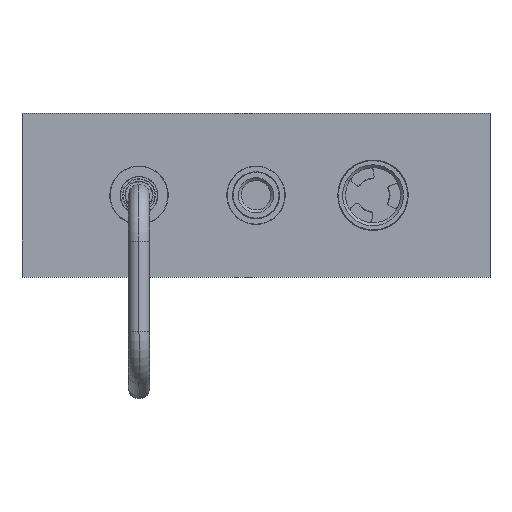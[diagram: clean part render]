
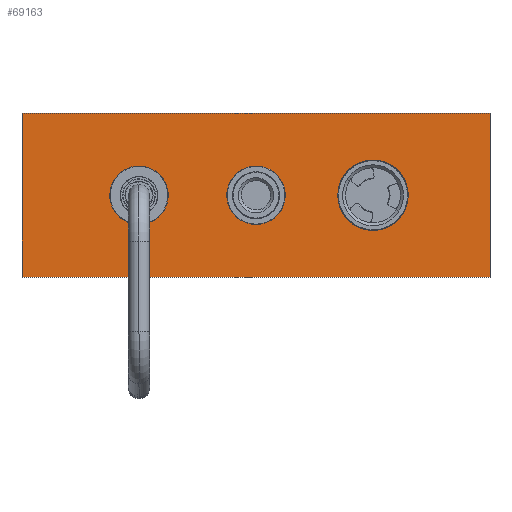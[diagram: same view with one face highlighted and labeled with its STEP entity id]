
A CAD part, top view. The second image highlights one B-rep face of the part: STEP entity #69163.
In plain terms, the highlighted planar face has unit normal (0, 0, 1).
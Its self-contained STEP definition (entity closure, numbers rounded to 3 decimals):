
#1066 = EDGE_CURVE ( 'NONE', #65564, #7315, #22038, .T. ) ;
#2858 = DIRECTION ( 'NONE',  ( 0., 0., 1. ) ) ;
#4224 = CARTESIAN_POINT ( 'NONE',  ( 200., -70., 20. ) ) ;
#5495 = FACE_BOUND ( 'NONE', #19574, .T. ) ;
#5968 = VECTOR ( 'NONE', #60071, 1000. ) ;
#6387 = ORIENTED_EDGE ( 'NONE', *, *, #1066, .T. ) ;
#7315 = VERTEX_POINT ( 'NONE', #65103 ) ;
#7729 = ORIENTED_EDGE ( 'NONE', *, *, #51245, .F. ) ;
#9045 = FACE_BOUND ( 'NONE', #49381, .T. ) ;
#9076 = CARTESIAN_POINT ( 'NONE',  ( 100., 0., 20. ) ) ;
#9109 = EDGE_CURVE ( 'NONE', #66281, #31534, #16325, .T. ) ;
#10462 = DIRECTION ( 'NONE',  ( -1., 0., 0. ) ) ;
#11919 = CIRCLE ( 'NONE', #31056, 17.5 ) ;
#12158 = LINE ( 'NONE', #55300, #5968 ) ;
#14007 = DIRECTION ( 'NONE',  ( 0., -1., 0. ) ) ;
#14748 = PLANE ( 'NONE',  #50041 ) ;
#15824 = ORIENTED_EDGE ( 'NONE', *, *, #9109, .F. ) ;
#15941 = DIRECTION ( 'NONE',  ( 0., 0., 1. ) ) ;
#16325 = CIRCLE ( 'NONE', #48789, 17.5 ) ;
#16568 = VERTEX_POINT ( 'NONE', #25516 ) ;
#17289 = DIRECTION ( 'NONE',  ( 1., 0., 0. ) ) ;
#18262 = CARTESIAN_POINT ( 'NONE',  ( -82.5, 0., 20. ) ) ;
#18359 = EDGE_CURVE ( 'NONE', #31534, #66281, #11919, .T. ) ;
#19281 = CARTESIAN_POINT ( 'NONE',  ( 15., 0., 20. ) ) ;
#19321 = EDGE_CURVE ( 'NONE', #51503, #46401, #25129, .T. ) ;
#19574 = EDGE_LOOP ( 'NONE', ( #7729, #45017 ) ) ;
#19758 = DIRECTION ( 'NONE',  ( 1., 0., 0. ) ) ;
#20233 = CIRCLE ( 'NONE', #67526, 15. ) ;
#20774 = EDGE_CURVE ( 'NONE', #16568, #65564, #21314, .T. ) ;
#20925 = CIRCLE ( 'NONE', #63713, 15. ) ;
#21314 = LINE ( 'NONE', #56191, #58723 ) ;
#21413 = DIRECTION ( 'NONE',  ( 1., 0., 0. ) ) ;
#22038 = LINE ( 'NONE', #42132, #62984 ) ;
#25129 = CIRCLE ( 'NONE', #49216, 15. ) ;
#25516 = CARTESIAN_POINT ( 'NONE',  ( 200., 70., 20. ) ) ;
#27383 = EDGE_LOOP ( 'NONE', ( #6387, #40255, #39089, #48517 ) ) ;
#27401 = DIRECTION ( 'NONE',  ( 0., 0., 1. ) ) ;
#29814 = ORIENTED_EDGE ( 'NONE', *, *, #19321, .F. ) ;
#30876 = VERTEX_POINT ( 'NONE', #33495 ) ;
#31056 = AXIS2_PLACEMENT_3D ( 'NONE', #61670, #27401, #21413 ) ;
#31534 = VERTEX_POINT ( 'NONE', #44813 ) ;
#32027 = CARTESIAN_POINT ( 'NONE',  ( 100., 0., 20. ) ) ;
#32578 = EDGE_CURVE ( 'NONE', #46401, #51503, #20233, .T. ) ;
#33309 = CARTESIAN_POINT ( 'NONE',  ( 85., 0., 20. ) ) ;
#33495 = CARTESIAN_POINT ( 'NONE',  ( 115., 0., 20. ) ) ;
#33510 = DIRECTION ( 'NONE',  ( 0., 0., 1. ) ) ;
#34014 = CARTESIAN_POINT ( 'NONE',  ( -200., -70., 20. ) ) ;
#34549 = AXIS2_PLACEMENT_3D ( 'NONE', #9076, #36727, #19758 ) ;
#35898 = DIRECTION ( 'NONE',  ( 1., 0., 0. ) ) ;
#36727 = DIRECTION ( 'NONE',  ( 0., 0., 1. ) ) ;
#38836 = CARTESIAN_POINT ( 'NONE',  ( 0., 0., 20. ) ) ;
#39060 = EDGE_CURVE ( 'NONE', #30876, #67291, #70407, .T. ) ;
#39089 = ORIENTED_EDGE ( 'NONE', *, *, #49536, .T. ) ;
#39225 = DIRECTION ( 'NONE',  ( 1., 0., 0. ) ) ;
#40255 = ORIENTED_EDGE ( 'NONE', *, *, #60720, .T. ) ;
#42132 = CARTESIAN_POINT ( 'NONE',  ( -200., 70., 20. ) ) ;
#42953 = DIRECTION ( 'NONE',  ( 0., 0., 1. ) ) ;
#44813 = CARTESIAN_POINT ( 'NONE',  ( -117.5, 0., 20. ) ) ;
#45017 = ORIENTED_EDGE ( 'NONE', *, *, #39060, .F. ) ;
#46401 = VERTEX_POINT ( 'NONE', #19281 ) ;
#48517 = ORIENTED_EDGE ( 'NONE', *, *, #20774, .T. ) ;
#48789 = AXIS2_PLACEMENT_3D ( 'NONE', #72249, #33510, #17289 ) ;
#49040 = VERTEX_POINT ( 'NONE', #4224 ) ;
#49093 = FACE_OUTER_BOUND ( 'NONE', #27383, .T. ) ;
#49216 = AXIS2_PLACEMENT_3D ( 'NONE', #57979, #58493, #35898 ) ;
#49381 = EDGE_LOOP ( 'NONE', ( #67351, #15824 ) ) ;
#49536 = EDGE_CURVE ( 'NONE', #49040, #16568, #12158, .T. ) ;
#50041 = AXIS2_PLACEMENT_3D ( 'NONE', #65717, #2858, #60257 ) ;
#50127 = ORIENTED_EDGE ( 'NONE', *, *, #32578, .F. ) ;
#51245 = EDGE_CURVE ( 'NONE', #67291, #30876, #20925, .T. ) ;
#51503 = VERTEX_POINT ( 'NONE', #73474 ) ;
#52998 = VECTOR ( 'NONE', #39225, 1000. ) ;
#53499 = FACE_BOUND ( 'NONE', #61080, .T. ) ;
#55300 = CARTESIAN_POINT ( 'NONE',  ( 200., 70., 20. ) ) ;
#55464 = DIRECTION ( 'NONE',  ( 1., 0., 0. ) ) ;
#56191 = CARTESIAN_POINT ( 'NONE',  ( -200., 70., 20. ) ) ;
#57979 = CARTESIAN_POINT ( 'NONE',  ( 0., 0., 20. ) ) ;
#58493 = DIRECTION ( 'NONE',  ( 0., 0., 1. ) ) ;
#58723 = VECTOR ( 'NONE', #10462, 1000. ) ;
#60071 = DIRECTION ( 'NONE',  ( 0., 1., 0. ) ) ;
#60097 = DIRECTION ( 'NONE',  ( 1., 0., 0. ) ) ;
#60257 = DIRECTION ( 'NONE',  ( 1., 0., 0. ) ) ;
#60720 = EDGE_CURVE ( 'NONE', #7315, #49040, #71682, .T. ) ;
#61080 = EDGE_LOOP ( 'NONE', ( #29814, #50127 ) ) ;
#61670 = CARTESIAN_POINT ( 'NONE',  ( -100., 0., 20. ) ) ;
#62984 = VECTOR ( 'NONE', #14007, 1000. ) ;
#63713 = AXIS2_PLACEMENT_3D ( 'NONE', #32027, #42953, #60097 ) ;
#65103 = CARTESIAN_POINT ( 'NONE',  ( -200., -70., 20. ) ) ;
#65564 = VERTEX_POINT ( 'NONE', #67613 ) ;
#65717 = CARTESIAN_POINT ( 'NONE',  ( -200., -70., 20. ) ) ;
#66281 = VERTEX_POINT ( 'NONE', #18262 ) ;
#67291 = VERTEX_POINT ( 'NONE', #33309 ) ;
#67351 = ORIENTED_EDGE ( 'NONE', *, *, #18359, .F. ) ;
#67526 = AXIS2_PLACEMENT_3D ( 'NONE', #38836, #15941, #55464 ) ;
#67613 = CARTESIAN_POINT ( 'NONE',  ( -200., 70., 20. ) ) ;
#69163 = ADVANCED_FACE ( 'NONE', ( #9045, #5495, #53499, #49093 ), #14748, .T. ) ;
#70407 = CIRCLE ( 'NONE', #34549, 15. ) ;
#71682 = LINE ( 'NONE', #34014, #52998 ) ;
#72249 = CARTESIAN_POINT ( 'NONE',  ( -100., 0., 20. ) ) ;
#73474 = CARTESIAN_POINT ( 'NONE',  ( -15., 0., 20. ) ) ;
